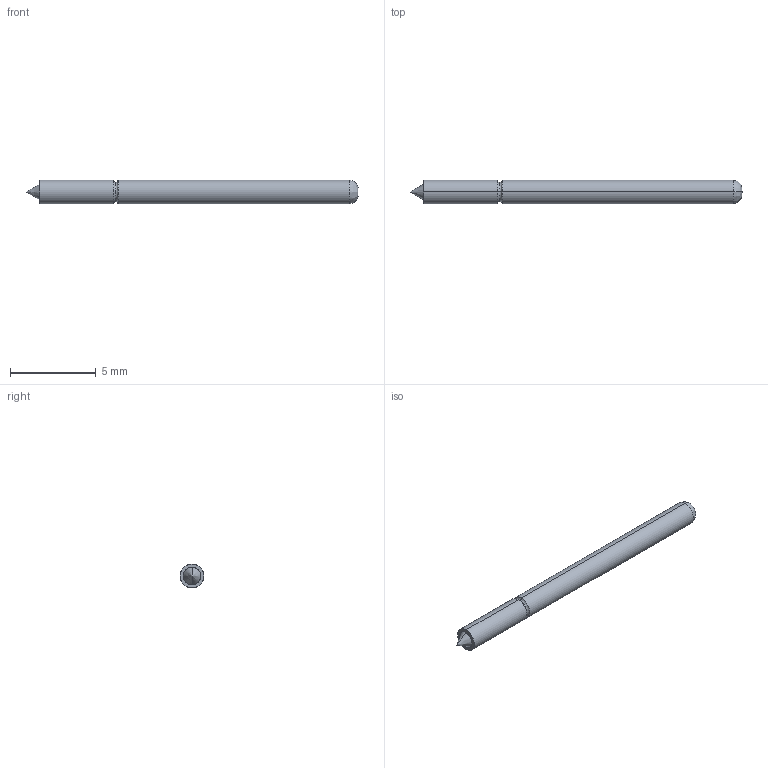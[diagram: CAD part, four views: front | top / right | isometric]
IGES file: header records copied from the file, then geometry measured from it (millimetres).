
Start section: SolidWorks IGES file using analytic representation for surfaces
Global section: file name: O:\PYLON\IGES FILES\P2664\P2664G-1C1S REC'D.IGS; native system: SolidWorks 2015; preprocessor: SolidWorks 2015; author: kgolden; date: 171019.131854; units: inch
Bounding box: 19.33 x 1.37 x 1.37 mm (x, y, z)
Surface area: 87.2 mm2 (no closed solid volume)
Topology: 0 solids, 0 shells, 18 faces, 112 edges, 110 vertices
Faces by surface type: revolution 10, bspline 8
